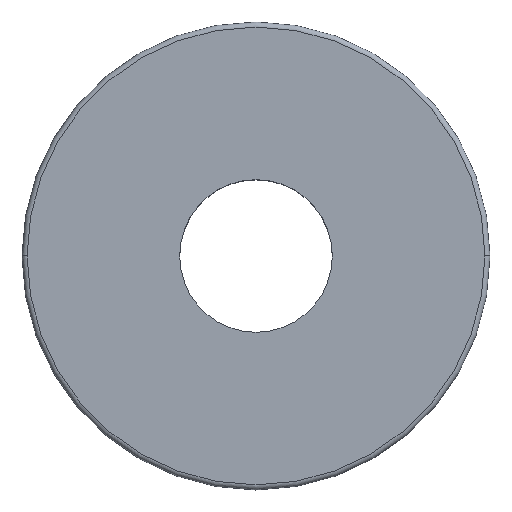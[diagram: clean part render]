
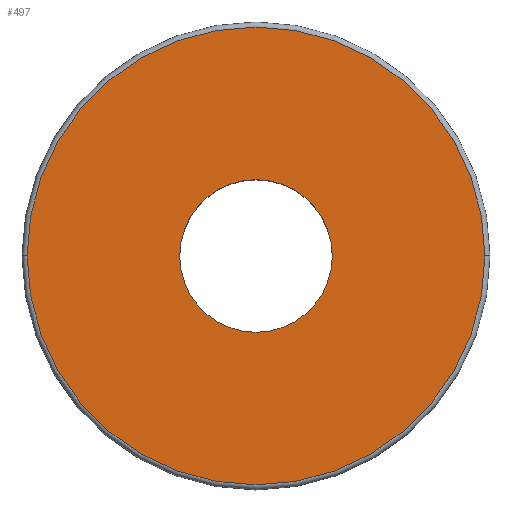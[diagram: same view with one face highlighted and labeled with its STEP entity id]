
A CAD part, top view. The second image highlights one B-rep face of the part: STEP entity #497.
In plain terms, the highlighted planar face has unit normal (0, 0, 1).
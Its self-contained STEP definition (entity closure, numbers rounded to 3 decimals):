
#7 = EDGE_CURVE ( 'NONE', #462, #392, #406, .T. ) ;
#39 = DIRECTION ( 'NONE',  ( 1., 0., 0. ) ) ;
#72 = CARTESIAN_POINT ( 'NONE',  ( 0., 0., 0.6 ) ) ;
#80 = DIRECTION ( 'NONE',  ( 1., 0., 0. ) ) ;
#107 = VERTEX_POINT ( 'NONE', #444 ) ;
#113 = EDGE_CURVE ( 'NONE', #328, #107, #134, .T. ) ;
#115 = DIRECTION ( 'NONE',  ( 0., 0., 1. ) ) ;
#120 = CARTESIAN_POINT ( 'NONE',  ( 0., 0., 0.6 ) ) ;
#134 = CIRCLE ( 'NONE', #234, 1.5 ) ;
#154 = FACE_OUTER_BOUND ( 'NONE', #460, .T. ) ;
#202 = CARTESIAN_POINT ( 'NONE',  ( -4.5, 0., 0.6 ) ) ;
#207 = EDGE_CURVE ( 'NONE', #392, #462, #319, .T. ) ;
#220 = AXIS2_PLACEMENT_3D ( 'NONE', #72, #239, #400 ) ;
#233 = EDGE_LOOP ( 'NONE', ( #369, #240 ) ) ;
#234 = AXIS2_PLACEMENT_3D ( 'NONE', #247, #475, #262 ) ;
#239 = DIRECTION ( 'NONE',  ( 0., 0., -1. ) ) ;
#240 = ORIENTED_EDGE ( 'NONE', *, *, #472, .T. ) ;
#245 = CARTESIAN_POINT ( 'NONE',  ( -1.5, 0., 0.6 ) ) ;
#247 = CARTESIAN_POINT ( 'NONE',  ( 0., 0., 0.6 ) ) ;
#262 = DIRECTION ( 'NONE',  ( -1., 0., 0. ) ) ;
#287 = AXIS2_PLACEMENT_3D ( 'NONE', #485, #115, #39 ) ;
#294 = AXIS2_PLACEMENT_3D ( 'NONE', #120, #404, #454 ) ;
#301 = CARTESIAN_POINT ( 'NONE',  ( 4.5, 0., 0.6 ) ) ;
#313 = PLANE ( 'NONE',  #287 ) ;
#319 = CIRCLE ( 'NONE', #501, 4.5 ) ;
#328 = VERTEX_POINT ( 'NONE', #245 ) ;
#330 = ORIENTED_EDGE ( 'NONE', *, *, #207, .T. ) ;
#359 = FACE_BOUND ( 'NONE', #233, .T. ) ;
#369 = ORIENTED_EDGE ( 'NONE', *, *, #113, .F. ) ;
#392 = VERTEX_POINT ( 'NONE', #301 ) ;
#400 = DIRECTION ( 'NONE',  ( -1., 0., 0. ) ) ;
#402 = ORIENTED_EDGE ( 'NONE', *, *, #7, .T. ) ;
#404 = DIRECTION ( 'NONE',  ( 0., 0., 1. ) ) ;
#406 = CIRCLE ( 'NONE', #294, 4.5 ) ;
#444 = CARTESIAN_POINT ( 'NONE',  ( 1.5, 0., 0.6 ) ) ;
#454 = DIRECTION ( 'NONE',  ( -1., 0., 0. ) ) ;
#460 = EDGE_LOOP ( 'NONE', ( #330, #402 ) ) ;
#462 = VERTEX_POINT ( 'NONE', #202 ) ;
#472 = EDGE_CURVE ( 'NONE', #328, #107, #528, .T. ) ;
#475 = DIRECTION ( 'NONE',  ( 0., 0., 1. ) ) ;
#485 = CARTESIAN_POINT ( 'NONE',  ( 0., 0., 0.6 ) ) ;
#497 = ADVANCED_FACE ( 'NONE', ( #359, #154 ), #313, .T. ) ;
#501 = AXIS2_PLACEMENT_3D ( 'NONE', #527, #534, #80 ) ;
#527 = CARTESIAN_POINT ( 'NONE',  ( 0., 0., 0.6 ) ) ;
#528 = CIRCLE ( 'NONE', #220, 1.5 ) ;
#534 = DIRECTION ( 'NONE',  ( 0., 0., 1. ) ) ;
